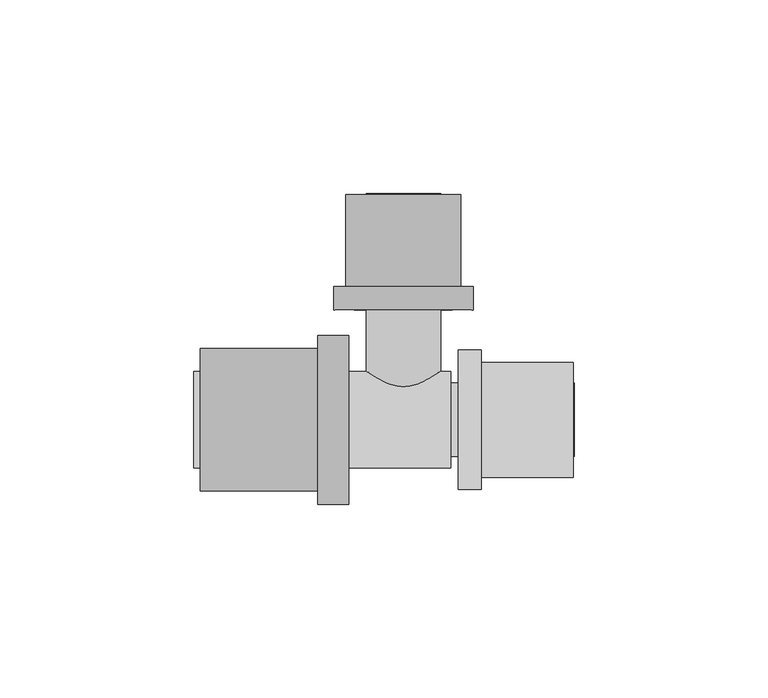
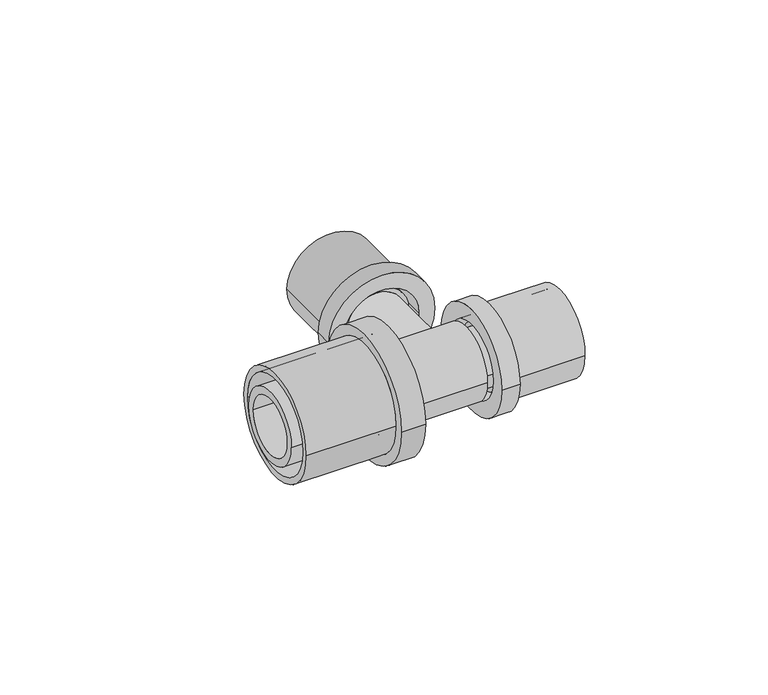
"""IFC4 building model written with IfcOpenShell, lengths in millimetres: pipe fitting geometry, FASTLOC_T-piece_EX+ : FSL T-Piece EX+ AT."""

from ifc_helpers import new_model, si_unit, frame, origin, place, context, project, spatial, polyline, circle_curve, source, transform, mapped, element, save
from ifc_brep_helpers import plane_surface, cylinder_surface, revolved_surface, advanced_brep


def pipe_fitting_d5e3d02e(model_context):
    return source(origin(), model_context, "Body", "AdvancedBrep", [
        advanced_brep(
        [(20.1, 18.0, 0.0), (20.1, -18.0, 0.0), (14.1, -18.0, 0.0), (14.1, 18.0, 0.0), (43.9, 14.85, 0.0), (43.9, -14.85, 0.0), (20.1, -14.85, 0.0), (20.1, 14.85, 0.0), (14.1, 12.65, 0.0), (14.1, -12.65, 0.0), (43.9, -12.65, 0.0), (43.9, 12.65, 0.0)],
        [
            (0, 1, circle_curve(frame((20.1, 0.0, 0.0), z_axis=(-1.0, 0.0, 0.0), x_axis=(0.0, -1.0, 0.0)), 18.0)),
            (1, 2),
            (2, 3, circle_curve(frame((14.1, 0.0, 0.0), z_axis=(1.0, 0.0, 0.0), x_axis=(0.0, -1.0, 0.0)), 18.0)),
            (3, 0),
            (4, 5, circle_curve(frame((43.9, 0.0, 0.0), z_axis=(-1.0, 0.0, 0.0), x_axis=(0.0, -1.0, 0.0)), 14.85)),
            (5, 6),
            (6, 7, circle_curve(frame((20.1, 0.0, 0.0), z_axis=(1.0, 0.0, 0.0), x_axis=(0.0, -1.0, 0.0)), 14.85)),
            (7, 4),
            (8, 9, circle_curve(frame((14.1, 0.0, 0.0), z_axis=(-1.0, 0.0, 0.0), x_axis=(0.0, -1.0, 0.0)), 12.65)),
            (9, 10),
            (10, 11, circle_curve(frame((43.9, 0.0, 0.0), z_axis=(1.0, 0.0, 0.0), x_axis=(0.0, -1.0, 0.0)), 12.65)),
            (11, 8),
            (1, 0, circle_curve(frame((20.1, 0.0, 0.0), z_axis=(-1.0, 0.0, 0.0), x_axis=(0.0, 1.0, 0.0)), 18.0)),
            (3, 2, circle_curve(frame((14.1, 0.0, 0.0), z_axis=(1.0, 0.0, 0.0), x_axis=(0.0, 1.0, 0.0)), 18.0)),
            (6, 7, circle_curve(frame((20.1, 0.0, 0.0), z_axis=(-1.0, 0.0, 0.0), x_axis=(0.0, 1.0, 0.0)), 14.85)),
            (5, 4, circle_curve(frame((43.9, 0.0, 0.0), z_axis=(-1.0, 0.0, 0.0), x_axis=(0.0, 1.0, 0.0)), 14.85)),
            (10, 11, circle_curve(frame((43.9, 0.0, 0.0), z_axis=(-1.0, 0.0, 0.0), x_axis=(0.0, 1.0, 0.0)), 12.65)),
            (9, 8, circle_curve(frame((14.1, 0.0, 0.0), z_axis=(-1.0, 0.0, 0.0), x_axis=(0.0, 1.0, 0.0)), 12.65)),
        ],
        [
            cylinder_surface(frame((14.1, 0.0, 0.0), z_axis=(1.0, 0.0, 0.0), x_axis=(0.0, -1.0, 0.0)), 18.0),
            cylinder_surface(frame((14.1, 0.0, 0.0), z_axis=(1.0, 0.0, 0.0), x_axis=(0.0, -1.0, 0.0)), 14.85),
            revolved_surface(polyline([(43.9, -12.65, 0.0), (14.1, -12.65, 0.0)]), (14.1, 0.0, 0.0), (1.0, 0.0, 0.0)),
            cylinder_surface(frame((14.1, 0.0, 0.0), z_axis=(1.0, 0.0, 0.0), x_axis=(0.0, 1.0, 0.0)), 18.0),
            plane_surface(frame((20.1, 0.0, 0.0), z_axis=(1.0, 0.0, 0.0), x_axis=(0.0, 1.0, 0.0))),
            cylinder_surface(frame((14.1, 0.0, 0.0), z_axis=(1.0, 0.0, 0.0), x_axis=(0.0, 1.0, 0.0)), 14.85),
            plane_surface(frame((43.9, 0.0, 0.0), z_axis=(1.0, 0.0, 0.0), x_axis=(0.0, 1.0, 0.0))),
            revolved_surface(polyline([(43.9, 12.65, 0.0), (14.1, 12.65, 0.0)]), (14.1, 0.0, 0.0), (1.0, 0.0, 0.0)),
            plane_surface(frame((14.1, 0.0, 0.0), z_axis=(-1.0, 0.0, 0.0), x_axis=(0.0, 1.0, 0.0))),
        ],
        [
            (0, [[1, 2, 3, 4]]),
            (1, [[5, 6, 7, 8]]),
            (2, [[9, 10, 11, 12]]),
            (3, [[13, -4, 14, -2]]),
            (4, [[-13, -1], [15, -7]]),
            (5, [[16, -8, -15, -6]]),
            (6, [[-16, -5], [17, -11]]),
            (7, [[18, -12, -17, -10]]),
            (8, [[-14, -3], [-18, -9]]),
        ],
    ),
        advanced_brep(
        [(-22.1, -21.8, 0.0), (-22.1, 21.8, 0.0), (-14.1, 21.8, 0.0), (-14.1, -21.8, 0.0), (-52.4, -18.35, 0.0), (-52.4, 18.35, 0.0), (-22.1, 18.35, 0.0), (-22.1, -18.35, 0.0), (-14.1, -16.2, 0.0), (-14.1, 16.2, 0.0), (-52.4, 16.2, 0.0), (-52.4, -16.2, 0.0)],
        [
            (0, 1, circle_curve(frame((-22.1, 0.0, 0.0), z_axis=(1.0, 0.0, 0.0), x_axis=(0.0, 1.0, 0.0)), 21.8)),
            (1, 2),
            (2, 3, circle_curve(frame((-14.1, 0.0, 0.0), z_axis=(-1.0, 0.0, 0.0), x_axis=(0.0, 1.0, 0.0)), 21.8)),
            (3, 0),
            (4, 5, circle_curve(frame((-52.4, 0.0, 0.0), z_axis=(1.0, 0.0, 0.0), x_axis=(0.0, 1.0, 0.0)), 18.35)),
            (5, 6),
            (6, 7, circle_curve(frame((-22.1, 0.0, 0.0), z_axis=(-1.0, 0.0, 0.0), x_axis=(0.0, 1.0, 0.0)), 18.35)),
            (7, 4),
            (8, 9, circle_curve(frame((-14.1, 0.0, 0.0), z_axis=(1.0, 0.0, 0.0), x_axis=(0.0, 1.0, 0.0)), 16.2)),
            (9, 10),
            (10, 11, circle_curve(frame((-52.4, 0.0, 0.0), z_axis=(-1.0, 0.0, 0.0), x_axis=(0.0, 1.0, 0.0)), 16.2)),
            (11, 8),
            (1, 0, circle_curve(frame((-22.1, 0.0, 0.0), z_axis=(1.0, 0.0, 0.0), x_axis=(0.0, -1.0, 0.0)), 21.8)),
            (3, 2, circle_curve(frame((-14.1, 0.0, 0.0), z_axis=(-1.0, 0.0, 0.0), x_axis=(0.0, -1.0, 0.0)), 21.8)),
            (6, 7, circle_curve(frame((-22.1, 0.0, 0.0), z_axis=(1.0, 0.0, 0.0), x_axis=(0.0, -1.0, 0.0)), 18.35)),
            (5, 4, circle_curve(frame((-52.4, 0.0, 0.0), z_axis=(1.0, 0.0, 0.0), x_axis=(0.0, -1.0, 0.0)), 18.35)),
            (10, 11, circle_curve(frame((-52.4, 0.0, 0.0), z_axis=(1.0, 0.0, 0.0), x_axis=(0.0, -1.0, 0.0)), 16.2)),
            (9, 8, circle_curve(frame((-14.1, 0.0, 0.0), z_axis=(1.0, 0.0, 0.0), x_axis=(0.0, -1.0, 0.0)), 16.2)),
        ],
        [
            cylinder_surface(frame((-14.1, 0.0, 0.0), z_axis=(-1.0, 0.0, 0.0), x_axis=(0.0, 1.0, 0.0)), 21.8),
            cylinder_surface(frame((-14.1, 0.0, 0.0), z_axis=(-1.0, 0.0, 0.0), x_axis=(0.0, 1.0, 0.0)), 18.35),
            revolved_surface(polyline([(-52.4, 16.2, 0.0), (-14.1, 16.2, 0.0)]), (-14.1, 0.0, 0.0), (-1.0, 0.0, 0.0)),
            cylinder_surface(frame((-14.1, 0.0, 0.0), z_axis=(-1.0, 0.0, 0.0), x_axis=(0.0, -1.0, 0.0)), 21.8),
            plane_surface(frame((-22.1, 0.0, 0.0), z_axis=(-1.0, 0.0, 0.0), x_axis=(0.0, -1.0, 0.0))),
            cylinder_surface(frame((-14.1, 0.0, 0.0), z_axis=(-1.0, 0.0, 0.0), x_axis=(0.0, -1.0, 0.0)), 18.35),
            plane_surface(frame((-52.4, 0.0, 0.0), z_axis=(-1.0, 0.0, 0.0), x_axis=(0.0, -1.0, 0.0))),
            revolved_surface(polyline([(-52.4, -16.2, 0.0), (-14.1, -16.2, 0.0)]), (-14.1, 0.0, 0.0), (-1.0, 0.0, 0.0)),
            plane_surface(frame((-14.1, 0.0, 0.0), z_axis=(1.0, 0.0, 0.0), x_axis=(0.0, -1.0, 0.0))),
        ],
        [
            (0, [[1, 2, 3, 4]]),
            (1, [[5, 6, 7, 8]]),
            (2, [[9, 10, 11, 12]]),
            (3, [[13, -4, 14, -2]]),
            (4, [[-13, -1], [15, -7]]),
            (5, [[16, -8, -15, -6]]),
            (6, [[-16, -5], [17, -11]]),
            (7, [[18, -12, -17, -10]]),
            (8, [[-14, -3], [-18, -9]]),
        ],
    ),
        advanced_brep(
        [(-18.0, 34.4, 0.0), (18.0, 34.4, 0.0), (18.0, 28.4, 0.0), (-18.0, 28.4, 0.0), (-14.85, 58.2, 0.0), (14.85, 58.2, 0.0), (14.85, 34.4, 0.0), (-14.85, 34.4, 0.0), (-12.65, 28.4, 0.0), (12.65, 28.4, 0.0), (12.65, 58.2, 0.0), (-12.65, 58.2, 0.0)],
        [
            (0, 1, circle_curve(frame((0.0, 34.4, 0.0), z_axis=(0.0, -1.0, 0.0), x_axis=(1.0, 0.0, 0.0)), 18.0)),
            (1, 2),
            (2, 3, circle_curve(frame((0.0, 28.4, 0.0), z_axis=(0.0, 1.0, 0.0), x_axis=(1.0, 0.0, 0.0)), 18.0)),
            (3, 0),
            (4, 5, circle_curve(frame((0.0, 58.2, 0.0), z_axis=(0.0, -1.0, 0.0), x_axis=(1.0, 0.0, 0.0)), 14.85)),
            (5, 6),
            (6, 7, circle_curve(frame((0.0, 34.4, 0.0), z_axis=(0.0, 1.0, 0.0), x_axis=(1.0, 0.0, 0.0)), 14.85)),
            (7, 4),
            (8, 9, circle_curve(frame((0.0, 28.4, 0.0), z_axis=(0.0, -1.0, 0.0), x_axis=(1.0, 0.0, 0.0)), 12.65)),
            (9, 10),
            (10, 11, circle_curve(frame((0.0, 58.2, 0.0), z_axis=(0.0, 1.0, 0.0), x_axis=(1.0, 0.0, 0.0)), 12.65)),
            (11, 8),
            (1, 0, circle_curve(frame((0.0, 34.4, 0.0), z_axis=(0.0, -1.0, 0.0), x_axis=(-1.0, 0.0, 0.0)), 18.0)),
            (3, 2, circle_curve(frame((0.0, 28.4, 0.0), z_axis=(0.0, 1.0, 0.0), x_axis=(-1.0, 0.0, 0.0)), 18.0)),
            (6, 7, circle_curve(frame((0.0, 34.4, 0.0), z_axis=(0.0, -1.0, 0.0), x_axis=(-1.0, 0.0, 0.0)), 14.85)),
            (5, 4, circle_curve(frame((0.0, 58.2, 0.0), z_axis=(0.0, -1.0, 0.0), x_axis=(-1.0, 0.0, 0.0)), 14.85)),
            (10, 11, circle_curve(frame((0.0, 58.2, 0.0), z_axis=(0.0, -1.0, 0.0), x_axis=(-1.0, 0.0, 0.0)), 12.65)),
            (9, 8, circle_curve(frame((0.0, 28.4, 0.0), z_axis=(0.0, -1.0, 0.0), x_axis=(-1.0, 0.0, 0.0)), 12.65)),
        ],
        [
            cylinder_surface(frame((0.0, 28.4, 0.0), z_axis=(0.0, 1.0, 0.0), x_axis=(1.0, 0.0, 0.0)), 18.0),
            cylinder_surface(frame((0.0, 28.4, 0.0), z_axis=(0.0, 1.0, 0.0), x_axis=(1.0, 0.0, 0.0)), 14.85),
            revolved_surface(polyline([(12.65, 58.2, 0.0), (12.65, 28.4, 0.0)]), (0.0, 28.4, 0.0), (0.0, 1.0, 0.0)),
            cylinder_surface(frame((0.0, 28.4, 0.0), z_axis=(0.0, 1.0, 0.0), x_axis=(-1.0, 0.0, 0.0)), 18.0),
            plane_surface(frame((0.0, 34.4, 0.0), z_axis=(0.0, 1.0, 0.0), x_axis=(-1.0, 0.0, 0.0))),
            cylinder_surface(frame((0.0, 28.4, 0.0), z_axis=(0.0, 1.0, 0.0), x_axis=(-1.0, 0.0, 0.0)), 14.85),
            plane_surface(frame((0.0, 58.2, 0.0), z_axis=(0.0, 1.0, 0.0), x_axis=(-1.0, 0.0, 0.0))),
            revolved_surface(polyline([(-12.65, 58.2, 0.0), (-12.65, 28.4, 0.0)]), (0.0, 28.4, 0.0), (0.0, 1.0, 0.0)),
            plane_surface(frame((0.0, 28.4, 0.0), z_axis=(0.0, -1.0, 0.0), x_axis=(-1.0, 0.0, 0.0))),
        ],
        [
            (0, [[1, 2, 3, 4]]),
            (1, [[5, 6, 7, 8]]),
            (2, [[9, 10, 11, 12]]),
            (3, [[13, -4, 14, -2]]),
            (4, [[-13, -1], [15, -7]]),
            (5, [[16, -8, -15, -6]]),
            (6, [[-16, -5], [17, -11]]),
            (7, [[18, -12, -17, -10]]),
            (8, [[-14, -3], [-18, -9]]),
        ],
    ),
        advanced_brep(
        [(17.3, 9.45, 0.0), (17.3, -9.45, 0.0), (12.25, -9.45, 0.0), (12.25, 9.45, 0.0), (20.1, 10.95, 0.0), (20.1, -10.95, 0.0), (17.3, -10.95, 0.0), (17.3, 10.95, 0.0), (44.1, 9.45, 0.0), (44.1, -9.45, 0.0), (20.1, -9.45, 0.0), (20.1, 9.45, 0.0), (10.0, 7.2, 0.0), (10.0, -7.2, 0.0), (44.1, -7.2, 0.0), (44.1, 7.2, 0.0), (-54.1, 9.85, 0.0), (-54.1, -9.85, 0.0), (10.0, -9.85, 0.0), (10.0, 9.85, 0.0), (-22.1, 12.5, 0.0), (-22.1, -12.5, 0.0), (-54.1, -12.5, 0.0), (-54.1, 12.5, 0.0), (-19.1, 14.1, 0.0), (-19.1, -14.1, 0.0), (-22.1, -14.1, 0.0), (-22.1, 14.1, 0.0), (12.25, 12.5, 0.0), (12.25, -12.5, 0.0), (-19.1, -12.5, 0.0), (-19.1, 12.5, 0.0)],
        [
            (0, 1, circle_curve(frame((17.3, 0.0, 0.0), z_axis=(-1.0, 0.0, 0.0), x_axis=(0.0, -1.0, 0.0)), 9.45)),
            (1, 2),
            (2, 3, circle_curve(frame((12.25, 0.0, 0.0), z_axis=(1.0, 0.0, 0.0), x_axis=(0.0, -1.0, 0.0)), 9.45)),
            (3, 0),
            (4, 5, circle_curve(frame((20.1, 0.0, 0.0), z_axis=(-1.0, 0.0, 0.0), x_axis=(0.0, -1.0, 0.0)), 10.95)),
            (5, 6),
            (6, 7, circle_curve(frame((17.3, 0.0, 0.0), z_axis=(1.0, 0.0, 0.0), x_axis=(0.0, -1.0, 0.0)), 10.95)),
            (7, 4),
            (8, 9, circle_curve(frame((44.1, 0.0, 0.0), z_axis=(-1.0, 0.0, 0.0), x_axis=(0.0, -1.0, 0.0)), 9.45)),
            (9, 10),
            (10, 11, circle_curve(frame((20.1, 0.0, 0.0), z_axis=(1.0, 0.0, 0.0), x_axis=(0.0, -1.0, 0.0)), 9.45)),
            (11, 8),
            (12, 13, circle_curve(frame((10.0, 0.0, 0.0), z_axis=(-1.0, 0.0, 0.0), x_axis=(0.0, -1.0, 0.0)), 7.2)),
            (13, 14),
            (14, 15, circle_curve(frame((44.1, 0.0, 0.0), z_axis=(1.0, 0.0, 0.0), x_axis=(0.0, -1.0, 0.0)), 7.2)),
            (15, 12),
            (16, 17, circle_curve(frame((-54.1, 0.0, 0.0), z_axis=(-1.0, 0.0, 0.0), x_axis=(0.0, -1.0, 0.0)), 9.85)),
            (17, 18),
            (18, 19, circle_curve(frame((10.0, 0.0, 0.0), z_axis=(1.0, 0.0, 0.0), x_axis=(0.0, -1.0, 0.0)), 9.85)),
            (19, 16),
            (20, 21, circle_curve(frame((-22.1, 0.0, 0.0), z_axis=(-1.0, 0.0, 0.0), x_axis=(0.0, -1.0, 0.0)), 12.5)),
            (21, 22),
            (22, 23, circle_curve(frame((-54.1, 0.0, 0.0), z_axis=(1.0, 0.0, 0.0), x_axis=(0.0, -1.0, 0.0)), 12.5)),
            (23, 20),
            (24, 25, circle_curve(frame((-19.1, 0.0, 0.0), z_axis=(-1.0, 0.0, 0.0), x_axis=(0.0, -1.0, 0.0)), 14.1)),
            (25, 26),
            (26, 27, circle_curve(frame((-22.1, 0.0, 0.0), z_axis=(1.0, 0.0, 0.0), x_axis=(0.0, -1.0, 0.0)), 14.1)),
            (27, 24),
            (28, 29, circle_curve(frame((12.25, 0.0, 0.0), z_axis=(-1.0, 0.0, 0.0), x_axis=(0.0, -1.0, 0.0)), 12.5)),
            (29, 30),
            (30, 31, circle_curve(frame((-19.1, 0.0, 0.0), z_axis=(1.0, 0.0, 0.0), x_axis=(0.0, -1.0, 0.0)), 12.5)),
            (31, 28),
            (28, 29, circle_curve(frame((12.25, 0.0, 0.0), z_axis=(1.0, 0.0, 0.0), x_axis=(0.0, 1.0, 0.0)), 12.5)),
            (2, 3, circle_curve(frame((12.25, 0.0, 0.0), z_axis=(-1.0, 0.0, 0.0), x_axis=(0.0, 1.0, 0.0)), 9.45)),
            (1, 0, circle_curve(frame((17.3, 0.0, 0.0), z_axis=(-1.0, 0.0, 0.0), x_axis=(0.0, 1.0, 0.0)), 9.45)),
            (6, 7, circle_curve(frame((17.3, 0.0, 0.0), z_axis=(-1.0, 0.0, 0.0), x_axis=(0.0, 1.0, 0.0)), 10.95)),
            (5, 4, circle_curve(frame((20.1, 0.0, 0.0), z_axis=(-1.0, 0.0, 0.0), x_axis=(0.0, 1.0, 0.0)), 10.95)),
            (10, 11, circle_curve(frame((20.1, 0.0, 0.0), z_axis=(-1.0, 0.0, 0.0), x_axis=(0.0, 1.0, 0.0)), 9.45)),
            (9, 8, circle_curve(frame((44.1, 0.0, 0.0), z_axis=(-1.0, 0.0, 0.0), x_axis=(0.0, 1.0, 0.0)), 9.45)),
            (14, 15, circle_curve(frame((44.1, 0.0, 0.0), z_axis=(-1.0, 0.0, 0.0), x_axis=(0.0, 1.0, 0.0)), 7.2)),
            (13, 12, circle_curve(frame((10.0, 0.0, 0.0), z_axis=(-1.0, 0.0, 0.0), x_axis=(0.0, 1.0, 0.0)), 7.2)),
            (18, 19, circle_curve(frame((10.0, 0.0, 0.0), z_axis=(-1.0, 0.0, 0.0), x_axis=(0.0, 1.0, 0.0)), 9.85)),
            (17, 16, circle_curve(frame((-54.1, 0.0, 0.0), z_axis=(-1.0, 0.0, 0.0), x_axis=(0.0, 1.0, 0.0)), 9.85)),
            (22, 23, circle_curve(frame((-54.1, 0.0, 0.0), z_axis=(-1.0, 0.0, 0.0), x_axis=(0.0, 1.0, 0.0)), 12.5)),
            (21, 20, circle_curve(frame((-22.1, 0.0, 0.0), z_axis=(-1.0, 0.0, 0.0), x_axis=(0.0, 1.0, 0.0)), 12.5)),
            (26, 27, circle_curve(frame((-22.1, 0.0, 0.0), z_axis=(-1.0, 0.0, 0.0), x_axis=(0.0, 1.0, 0.0)), 14.1)),
            (25, 24, circle_curve(frame((-19.1, 0.0, 0.0), z_axis=(-1.0, 0.0, 0.0), x_axis=(0.0, 1.0, 0.0)), 14.1)),
            (30, 31, circle_curve(frame((-19.1, 0.0, 0.0), z_axis=(-1.0, 0.0, 0.0), x_axis=(0.0, 1.0, 0.0)), 12.5)),
        ],
        [
            cylinder_surface(frame((0.0, 0.0, 0.0), z_axis=(1.0, 0.0, 0.0), x_axis=(0.0, -1.0, 0.0)), 9.45),
            cylinder_surface(frame((0.0, 0.0, 0.0), z_axis=(1.0, 0.0, 0.0), x_axis=(0.0, -1.0, 0.0)), 10.95),
            revolved_surface(polyline([(44.1, -7.2, 0.0), (10.0, -7.2, 0.0)]), (0.0, 0.0, 0.0), (1.0, 0.0, 0.0)),
            revolved_surface(polyline([(10.0, -9.85, 0.0), (-54.1, -9.85, 0.0)]), (0.0, 0.0, 0.0), (1.0, 0.0, 0.0)),
            cylinder_surface(frame((0.0, 0.0, 0.0), z_axis=(1.0, 0.0, 0.0), x_axis=(0.0, -1.0, 0.0)), 12.5),
            cylinder_surface(frame((0.0, 0.0, 0.0), z_axis=(1.0, 0.0, 0.0), x_axis=(0.0, -1.0, 0.0)), 14.1),
            plane_surface(frame((12.25, 0.0, 0.0), z_axis=(1.0, 0.0, 0.0), x_axis=(0.0, 1.0, 0.0))),
            cylinder_surface(frame((0.0, 0.0, 0.0), z_axis=(1.0, 0.0, 0.0), x_axis=(0.0, 1.0, 0.0)), 9.45),
            plane_surface(frame((17.3, 0.0, 0.0), z_axis=(-1.0, 0.0, 0.0), x_axis=(0.0, 1.0, 0.0))),
            cylinder_surface(frame((0.0, 0.0, 0.0), z_axis=(1.0, 0.0, 0.0), x_axis=(0.0, 1.0, 0.0)), 10.95),
            plane_surface(frame((20.1, 0.0, 0.0), z_axis=(1.0, 0.0, 0.0), x_axis=(0.0, 1.0, 0.0))),
            plane_surface(frame((44.1, 0.0, 0.0), z_axis=(1.0, 0.0, 0.0), x_axis=(0.0, 1.0, 0.0))),
            revolved_surface(polyline([(44.1, 7.2, 0.0), (10.0, 7.2, 0.0)]), (0.0, 0.0, 0.0), (1.0, 0.0, 0.0)),
            plane_surface(frame((10.0, 0.0, 0.0), z_axis=(-1.0, 0.0, 0.0), x_axis=(0.0, 1.0, 0.0))),
            revolved_surface(polyline([(10.0, 9.85, 0.0), (-54.1, 9.85, 0.0)]), (0.0, 0.0, 0.0), (1.0, 0.0, 0.0)),
            plane_surface(frame((-54.1, 0.0, 0.0), z_axis=(-1.0, 0.0, 0.0), x_axis=(0.0, 1.0, 0.0))),
            cylinder_surface(frame((0.0, 0.0, 0.0), z_axis=(1.0, 0.0, 0.0), x_axis=(0.0, 1.0, 0.0)), 12.5),
            plane_surface(frame((-22.1, 0.0, 0.0), z_axis=(-1.0, 0.0, 0.0), x_axis=(0.0, 1.0, 0.0))),
            cylinder_surface(frame((0.0, 0.0, 0.0), z_axis=(1.0, 0.0, 0.0), x_axis=(0.0, 1.0, 0.0)), 14.1),
            plane_surface(frame((-19.1, 0.0, 0.0), z_axis=(1.0, 0.0, 0.0), x_axis=(0.0, 1.0, 0.0))),
        ],
        [
            (0, [[1, 2, 3, 4]]),
            (1, [[5, 6, 7, 8]]),
            (0, [[9, 10, 11, 12]]),
            (2, [[13, 14, 15, 16]]),
            (3, [[17, 18, 19, 20]]),
            (4, [[21, 22, 23, 24]]),
            (5, [[25, 26, 27, 28]]),
            (4, [[29, 30, 31, 32]]),
            (6, [[33, -29], [34, -3]]),
            (7, [[35, -4, -34, -2]]),
            (8, [[36, -7], [-35, -1]]),
            (9, [[37, -8, -36, -6]]),
            (10, [[-37, -5], [38, -11]]),
            (7, [[39, -12, -38, -10]]),
            (11, [[-39, -9], [40, -15]]),
            (12, [[41, -16, -40, -14]]),
            (13, [[42, -19], [-41, -13]]),
            (14, [[43, -20, -42, -18]]),
            (15, [[44, -23], [-43, -17]]),
            (16, [[45, -24, -44, -22]]),
            (17, [[46, -27], [-45, -21]]),
            (18, [[47, -28, -46, -26]]),
            (19, [[-47, -25], [48, -31]]),
            (16, [[-33, -32, -48, -30]]),
        ],
    ),
        advanced_brep(
        [(7.35, 58.4, 0.0), (-7.35, 58.4, 0.0), (-7.35, 0.0, 0.0), (7.35, 0.0, 0.0), (9.6, 0.0, 0.0), (-9.6, 0.0, 0.0), (-9.6, 31.6, 0.0), (9.6, 31.6, 0.0), (11.1, 31.6, 0.0), (-11.1, 31.6, 0.0), (-11.1, 34.4, 0.0), (11.1, 34.4, 0.0), (9.6, 34.4, 0.0), (-9.6, 34.4, 0.0), (-9.6, 58.4, 0.0), (9.6, 58.4, 0.0)],
        [
            (0, 1, circle_curve(frame((0.0, 58.4, 0.0), z_axis=(0.0, 1.0, 0.0), x_axis=(-1.0, 0.0, 0.0)), 7.35)),
            (1, 2),
            (2, 3, circle_curve(frame((0.0, 0.0, 0.0), z_axis=(0.0, -1.0, 0.0), x_axis=(-1.0, 0.0, 0.0)), 7.35)),
            (3, 0),
            (4, 5, circle_curve(frame((0.0, 0.0, 0.0), z_axis=(0.0, 1.0, 0.0), x_axis=(-1.0, 0.0, 0.0)), 9.6)),
            (5, 6),
            (6, 7, circle_curve(frame((0.0, 31.6, 0.0), z_axis=(0.0, -1.0, 0.0), x_axis=(-1.0, 0.0, 0.0)), 9.6)),
            (7, 4),
            (8, 9, circle_curve(frame((0.0, 31.6, 0.0), z_axis=(0.0, 1.0, 0.0), x_axis=(-1.0, 0.0, 0.0)), 11.1)),
            (9, 10),
            (10, 11, circle_curve(frame((0.0, 34.4, 0.0), z_axis=(0.0, -1.0, 0.0), x_axis=(-1.0, 0.0, 0.0)), 11.1)),
            (11, 8),
            (12, 13, circle_curve(frame((0.0, 34.4, 0.0), z_axis=(0.0, 1.0, 0.0), x_axis=(-1.0, 0.0, 0.0)), 9.6)),
            (13, 14),
            (14, 15, circle_curve(frame((0.0, 58.4, 0.0), z_axis=(0.0, -1.0, 0.0), x_axis=(-1.0, 0.0, 0.0)), 9.6)),
            (15, 12),
            (1, 0, circle_curve(frame((0.0, 58.4, 0.0), z_axis=(0.0, 1.0, 0.0), x_axis=(1.0, 0.0, 0.0)), 7.35)),
            (3, 2, circle_curve(frame((0.0, 0.0, 0.0), z_axis=(0.0, -1.0, 0.0), x_axis=(1.0, 0.0, 0.0)), 7.35)),
            (4, 5, circle_curve(frame((0.0, 0.0, 0.0), z_axis=(0.0, -1.0, 0.0), x_axis=(1.0, 0.0, 0.0)), 9.6)),
            (7, 6, circle_curve(frame((0.0, 31.6, 0.0), z_axis=(0.0, -1.0, 0.0), x_axis=(1.0, 0.0, 0.0)), 9.6)),
            (8, 9, circle_curve(frame((0.0, 31.6, 0.0), z_axis=(0.0, -1.0, 0.0), x_axis=(1.0, 0.0, 0.0)), 11.1)),
            (11, 10, circle_curve(frame((0.0, 34.4, 0.0), z_axis=(0.0, -1.0, 0.0), x_axis=(1.0, 0.0, 0.0)), 11.1)),
            (12, 13, circle_curve(frame((0.0, 34.4, 0.0), z_axis=(0.0, -1.0, 0.0), x_axis=(1.0, 0.0, 0.0)), 9.6)),
            (15, 14, circle_curve(frame((0.0, 58.4, 0.0), z_axis=(0.0, -1.0, 0.0), x_axis=(1.0, 0.0, 0.0)), 9.6)),
        ],
        [
            revolved_surface(polyline([(-7.35, 0.0, 0.0), (-7.35, 58.4, 0.0)]), (0.0, 0.0, 0.0), (0.0, -1.0, 0.0)),
            cylinder_surface(frame((0.0, 0.0, 0.0), z_axis=(0.0, -1.0, 0.0), x_axis=(-1.0, 0.0, 0.0)), 9.6),
            cylinder_surface(frame((0.0, 0.0, 0.0), z_axis=(0.0, -1.0, 0.0), x_axis=(-1.0, 0.0, 0.0)), 11.1),
            revolved_surface(polyline([(7.35, 0.0, 0.0), (7.35, 58.4, 0.0)]), (0.0, 0.0, 0.0), (0.0, -1.0, 0.0)),
            plane_surface(frame((0.0, 0.0, 0.0), z_axis=(0.0, -1.0, 0.0), x_axis=(1.0, 0.0, 0.0))),
            cylinder_surface(frame((0.0, 0.0, 0.0), z_axis=(0.0, -1.0, 0.0), x_axis=(1.0, 0.0, 0.0)), 9.6),
            plane_surface(frame((0.0, 31.6, 0.0), z_axis=(0.0, -1.0, 0.0), x_axis=(1.0, 0.0, 0.0))),
            cylinder_surface(frame((0.0, 0.0, 0.0), z_axis=(0.0, -1.0, 0.0), x_axis=(1.0, 0.0, 0.0)), 11.1),
            plane_surface(frame((0.0, 34.4, 0.0), z_axis=(0.0, 1.0, 0.0), x_axis=(1.0, 0.0, 0.0))),
            plane_surface(frame((0.0, 58.4, 0.0), z_axis=(0.0, 1.0, 0.0), x_axis=(1.0, 0.0, 0.0))),
        ],
        [
            (0, [[1, 2, 3, 4]]),
            (1, [[5, 6, 7, 8]]),
            (2, [[9, 10, 11, 12]]),
            (1, [[13, 14, 15, 16]]),
            (3, [[17, -4, 18, -2]]),
            (4, [[19, -5], [-18, -3]]),
            (5, [[-19, -8, 20, -6]]),
            (6, [[21, -9], [-20, -7]]),
            (7, [[-21, -12, 22, -10]]),
            (8, [[-22, -11], [23, -13]]),
            (5, [[-23, -16, 24, -14]]),
            (9, [[-24, -15], [-17, -1]]),
        ],
    ),
    ])


if __name__ == "__main__":
    model = new_model("IFC4")
    model_context = context("Model", 3, world=origin())
    ifc_project = project(units=[si_unit("LENGTHUNIT", "METRE", prefix="MILLI")], contexts=[model_context])
    site = spatial("IfcSite", under=ifc_project)
    building = spatial("IfcBuilding", under=site)
    placement = place(None, origin())
    pipe_fitting_shape = pipe_fitting_d5e3d02e(model_context)
    element("IfcPipeFitting", 1, ObjectType="FASTLOC_T-piece_EX+ : FSL T-Piece EX+ AT", at=placement, inside=building, context=model_context, shape_type="MappedRepresentation", body=[
        mapped(pipe_fitting_shape, transform((0.0, 0.0, 0.0), x_axis=(1.0, 0.0, 0.0), y_axis=(0.0, 1.0, 0.0), z_axis=(0.0, 0.0, 1.0))),
    ])
    save(model, "model.ifc")
